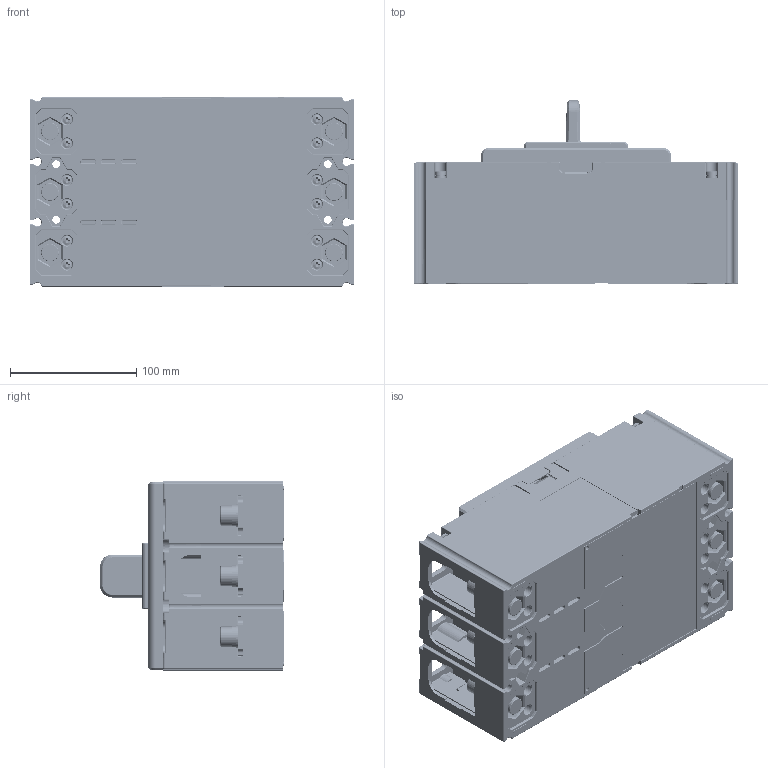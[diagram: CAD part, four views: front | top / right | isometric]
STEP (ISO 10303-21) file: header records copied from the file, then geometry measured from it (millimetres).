
FILE_DESCRIPTION((''),'2;1');
FILE_NAME('2253025800_ASM_1_ASM_1_ASM','2023-05-23T',('xiaoli01.li'),(''),'PRO/ENGINEER BY PARAMETRIC TECHNOLOGY CORPORATION, 2015440','PRO/ENGINEER BY PARAMETRIC TECHNOLOGY CORPORATION, 2015440','');
FILE_SCHEMA(('CONFIG_CONTROL_DESIGN'));
Products named in the file (77): JZ_5024044100_1_1; PRT0001; 5024044100_ASM_1_ASM_1_ASM; PRT0002; 5203019900_ASM_1_ASM_1; PRT0003; MANIFOLD_SOLID_BREP_121104_1; MANIFOLD_SOLID_BREP_121254_1; ASM0002_ASM; PRT0004; PRT0005; PRT0006; PRT0007; MANIFOLD_SOLID_BREP_130059_1; MANIFOLD_SOLID_BREP_130196_1; MANIFOLD_SOLID_BREP_130333_1; ASM0003_ASM; ASM0001_ASM; 8205066600_2_1; 5551071200_ASM_1_ASM_1_ASM; MANIFOLD_SOLID_BREP_166773_1; MANIFOLD_SOLID_BREP_166913_1; ASM0005_ASM; PRT0008; PRT0009; PRT0010; ASM0004_ASM; MANIFOLD_SOLID_BREP_118325_1; MANIFOLD_SOLID_BREP_118465_1; 8551044200_2_ASM_1_ASM; 8595009000_2_1; GB_T109-3X6_AF0_2_1; 8550073900_2_1; ASM0006_ASM; ASM0007_ASM; 5257006400_ASM_2_ASM_1; 5040005400_ASM_2_ASM_1_ASM; 5233014400_ASM_2_ASM_1; 5238001200_ASM_2_ASM_1_ASM; PRT0011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
Assembly tree (134 placements, depth 6):
  2253025800_ASM_1_ASM_1_ASM
    5295008600_ASM_1_ASM_1_ASM
      5024044100_ASM_1_ASM_1_ASM
        JZ_5024044100_1_1
        PRT0001  x6
      PRT0002  x6
      5551071200_ASM_1_ASM_1_ASM
        5203019900_ASM_1_ASM_1
        ASM0001_ASM  x3
          PRT0003
          ASM0002_ASM
            MANIFOLD_SOLID_BREP_121104_1
            MANIFOLD_SOLID_BREP_121254_1
          PRT0004
          PRT0005
          PRT0006
          PRT0007
          ASM0003_ASM
            MANIFOLD_SOLID_BREP_130059_1
            MANIFOLD_SOLID_BREP_130196_1
            MANIFOLD_SOLID_BREP_130333_1
        8205066600_2_1
      ASM0004_ASM
        ASM0005_ASM
          MANIFOLD_SOLID_BREP_166773_1
          MANIFOLD_SOLID_BREP_166913_1
        PRT0008
        PRT0009
        PRT0010
      ASM0006_ASM
        8551044200_2_ASM_1_ASM
          MANIFOLD_SOLID_BREP_118325_1
          MANIFOLD_SOLID_BREP_118465_1
        8595009000_2_1
        GB_T109-3X6_AF0_2_1
        8550073900_2_1
      ASM0007_ASM
        8551044200_2_ASM_1_ASM
          MANIFOLD_SOLID_BREP_118325_1
          MANIFOLD_SOLID_BREP_118465_1
        8595009000_2_1
        GB_T109-3X6_AF0_2_1
        8550073900_2_1
      5238001200_ASM_2_ASM_1_ASM
        5040005400_ASM_2_ASM_1_ASM
          5257006400_ASM_2_ASM_1
        5233014400_ASM_2_ASM_1
      ASM0008_ASM
        PRT0011
      PRT0012  x2
      PRT0013  x4
      ASM0009_ASM  x18
        PRT0014
        PRT0015
        PRT0016
    PRT0017  x3
    PRT0018  x3
    ASM0010_ASM
      PRT0019
      PRT0020
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Bounding box: 257 x 145.9 x 150 mm (x, y, z)
Volume: 1464748.3 mm3; surface area: 721223.6 mm2
Topology: 186 solids, 186 shells, 9646 faces, 25001 edges, 15829 vertices
Faces by surface type: plane 5565, cylinder 2677, torus 499, cone 376, extrusion 215, sphere 187, bspline 127
Entity records: 242500 total; most frequent: CARTESIAN_POINT 56294, ORIENTED_EDGE 39108, DIRECTION 37813, EDGE_CURVE 19554, VECTOR 13709, LINE 13494, VERTEX_POINT 12534, AXIS2_PLACEMENT_3D 12052
